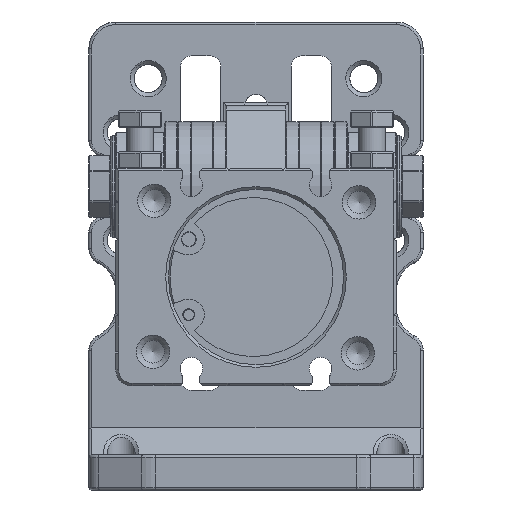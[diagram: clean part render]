
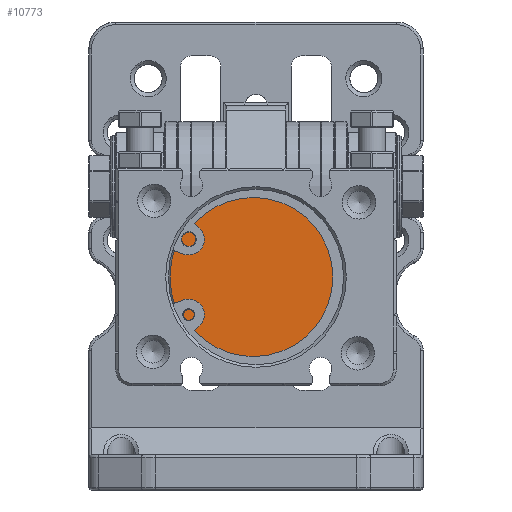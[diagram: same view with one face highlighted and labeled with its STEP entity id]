
A CAD part, front view. The second image highlights one B-rep face of the part: STEP entity #10773.
In plain terms, the highlighted planar face has unit normal (0, -1, 0).
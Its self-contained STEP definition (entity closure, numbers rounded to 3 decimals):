
#637=FACE_OUTER_BOUND('',#15036,.T.);
#10773=ADVANCED_FACE('',(#637),#12594,.F.);
#12594=PLANE('',#36870);
#15036=EDGE_LOOP('',(#18501));
#18501=ORIENTED_EDGE('',*,*,#31104,.T.);
#27527=VERTEX_POINT('',#51964);
#31104=EDGE_CURVE('',#27527,#27527,#35576,.T.);
#35576=CIRCLE('',#36868,15.95);
#36868=AXIS2_PLACEMENT_3D('',#51963,#40870,#40871);
#36870=AXIS2_PLACEMENT_3D('',#51966,#40874,#40875);
#40870=DIRECTION('',(0.,-1.,0.));
#40871=DIRECTION('',(0.,0.,1.));
#40874=DIRECTION('',(0.,1.,0.));
#40875=DIRECTION('',(0.,0.,-1.));
#51963=CARTESIAN_POINT('',(200.,4.6,0.));
#51964=CARTESIAN_POINT('',(200.,4.6,15.95));
#51966=CARTESIAN_POINT('',(184.05,4.6,0.));
